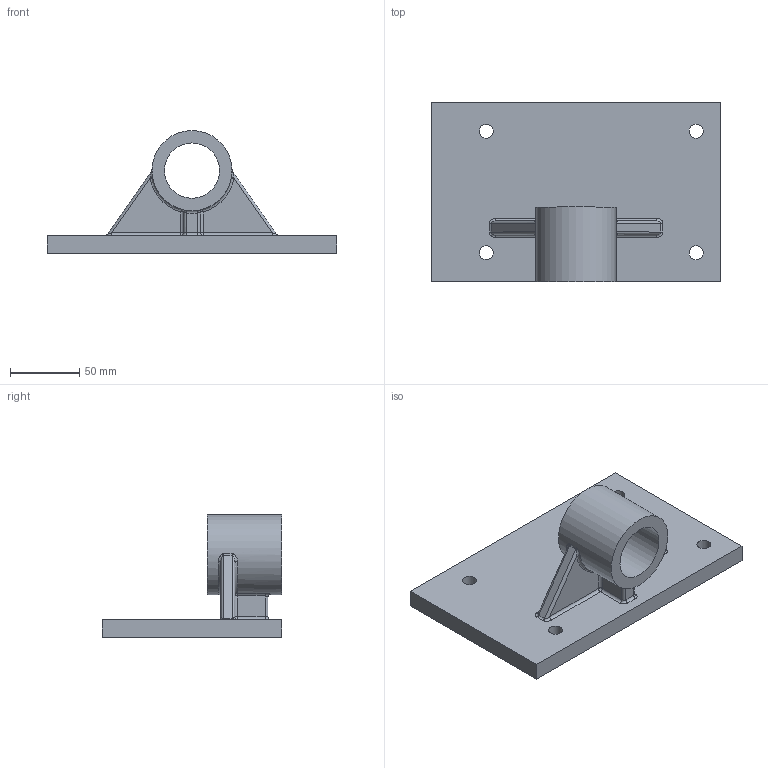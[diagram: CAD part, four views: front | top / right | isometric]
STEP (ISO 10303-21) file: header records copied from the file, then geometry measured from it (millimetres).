
FILE_DESCRIPTION((''),'2;1');
FILE_NAME('D:\PAWEŁ\ZLECENIA\DualSystem\001 Modele\DKAB60_\DK_60_STEP\AT_60.stp','2011-11-25T00:12:37',('Pawe'),(''),'Autodesk Inventor 2009','Autodesk Inventor 2009','');
FILE_SCHEMA(('AUTOMOTIVE_DESIGN { 1 0 10303 214 1 1 1 1 }'));
Length unit declared in the file: millimetre
Products named in the file (1): AT_60
Bounding box: 210 x 130 x 89 mm (x, y, z)
Volume: 460528.3 mm3; surface area: 88396.2 mm2
Topology: 1 solids, 1 shells, 62 faces, 147 edges, 86 vertices
Faces by surface type: cylinder 26, bspline 20, plane 16
Full cylindrical faces by diameter (mm): 10.106 x4, 40 x1, 58 x1
Entity records: 3052 total; most frequent: CARTESIAN_POINT 1703, DIRECTION 274, ORIENTED_EDGE 264, EDGE_CURVE 132, AXIS2_PLACEMENT_3D 111, VERTEX_POINT 80, EDGE_LOOP 80, FACE_OUTER_BOUND 62
